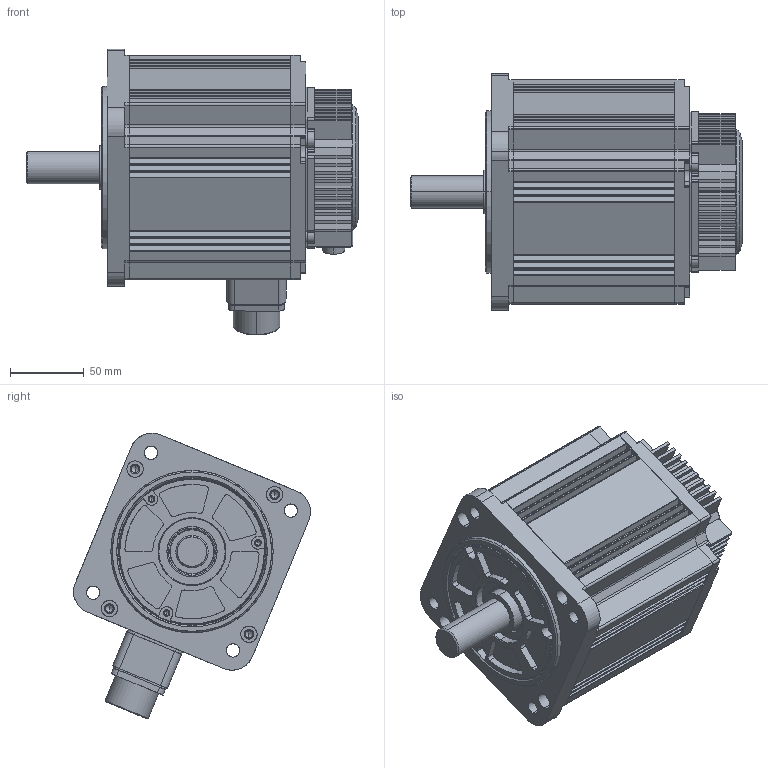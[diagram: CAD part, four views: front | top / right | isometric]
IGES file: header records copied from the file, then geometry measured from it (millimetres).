
Start section: SolidWorks IGES file using analytic representation for surfaces
Global section: file name: Z:\Products\Servo\Servo Motor\EMG-15-B22\UMM-0015EA-B2_UMM-0015CA-B2 CAD Files\UMM-0015EA-B2_UMM-0015CA-B2.IGS; native system: SolidWorks 2017; preprocessor: SolidWorks 2017; author: laorb; date: 190418.074646; units: millimetre
Bounding box: 225 x 160.61 x 193.61 mm (x, y, z)
Surface area: 348857.9 mm2 (no closed solid volume)
Topology: 0 solids, 0 shells, 1449 faces, 22238 edges, 22128 vertices
Faces by surface type: revolution 782, bspline 667
